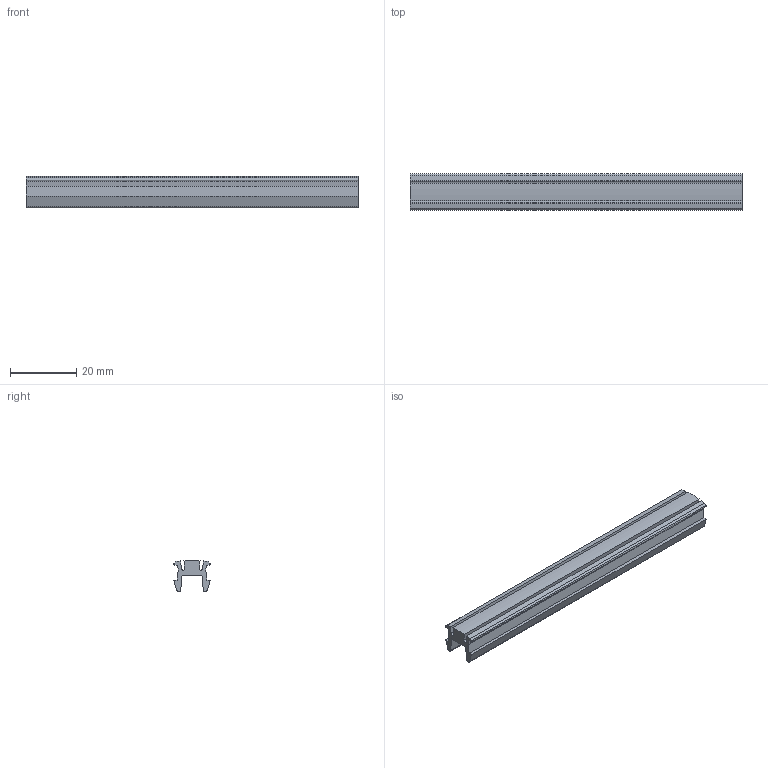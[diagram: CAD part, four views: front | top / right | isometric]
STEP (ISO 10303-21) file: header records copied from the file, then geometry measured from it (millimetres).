
FILE_DESCRIPTION(/* description */ ('STEP AP203'),/* implementation_level */ '2;1');
FILE_NAME(/* name */ 'C:\Users\Stefan.Nesic\Desktop\01010STEP\000Verifica\CORRETTI\TSC08BK-TB.stp',/* time_stamp */ '2022-07-12T14:08:27+02:00',/* author */ (''),/* organization */ (''),/* preprocessor_version */ 'ST-DEVELOPER v18.1',/* originating_system */ 'Autodesk Inventor 2021',/* authorisation */ '');
FILE_SCHEMA (('AUTOMOTIVE_DESIGN { 1 0 10303 214 3 1 1 }'));
Length unit declared in the file: millimetre
Products named in the file (1): TSC08BK-TB
Bounding box: 100 x 11 x 9.49 mm (x, y, z)
Volume: 4987.4 mm3; surface area: 6196.8 mm2
Topology: 1 solids, 1 shells, 30 faces, 84 edges, 56 vertices
Faces by surface type: plane 21, cylinder 9
Entity records: 1007 total; most frequent: CARTESIAN_POINT 171, ORIENTED_EDGE 168, DIRECTION 164, EDGE_CURVE 84, LINE 66, VECTOR 66, VERTEX_POINT 56, AXIS2_PLACEMENT_3D 49
